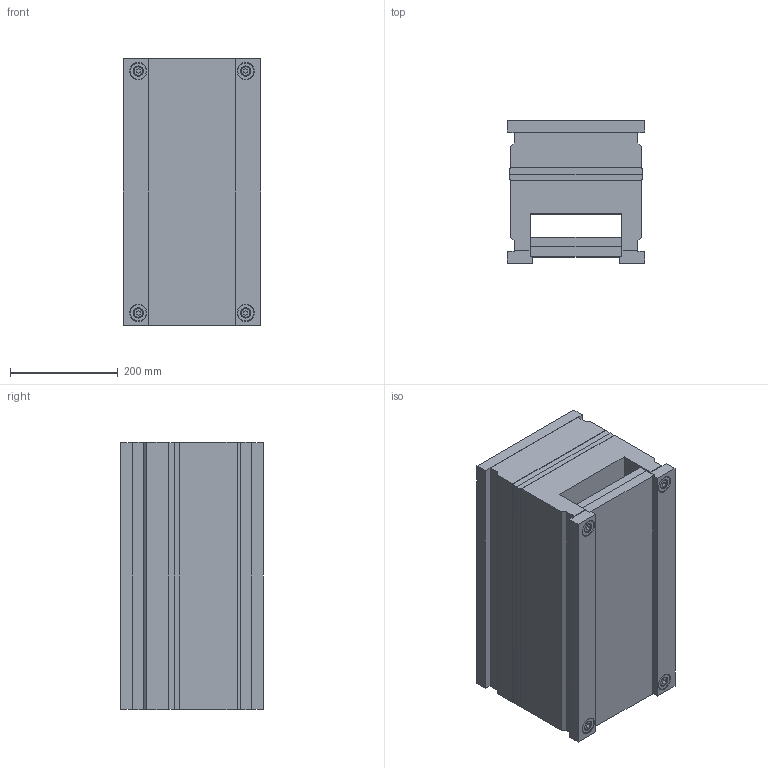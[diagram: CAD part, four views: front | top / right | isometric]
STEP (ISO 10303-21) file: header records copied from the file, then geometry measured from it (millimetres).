
FILE_DESCRIPTION (( 'STEP AP214' ), '1' );
FILE_NAME ('2466.STEP', '2002-07-10T07:55:07', ( 'Simcha Kilim' ), ( 'K. Plastics Engineering' ), 'SwSTEP 2.0', 'SolidWorks 2002025', '' );
FILE_SCHEMA (( 'AUTOMOTIVE_DESIGN' ));
Length unit declared in the file: millimetre
Products named in the file (12): 2466; ALMO (ejector half)_2466; ALMO (guide bush)_Ø18; ALMO (ejector return plate)_2466; ALMO (hot half)_2466; ALMO (ejector plate)_2466; ALMO (guide bush)_Ø19; ALMO (key plate)_Ø18; ALMO (guide pin)_Ø19; ALMO (screw)_M10x70; ALMO (guide pin)_Ø18; ALMO (screw)_M10x120
Assembly tree (28 placements, depth 2):
  2466
    ALMO (key plate)_Ø18  x8
    ALMO (screw)_M10x70  x4
    ALMO (guide bush)_Ø18  x3
    ALMO (hot half)_2466
    ALMO (screw)_M10x120  x4
    ALMO (guide pin)_Ø18  x3
    ALMO (ejector plate)_2466
    ALMO (guide pin)_Ø19
    ALMO (ejector return plate)_2466
    ALMO (guide bush)_Ø19
    ALMO (ejector half)_2466
Bounding box: 255 x 266 x 498 mm (x, y, z)
Volume: 27323069.1 mm3; surface area: 1556962 mm2
Topology: 28 solids, 28 shells, 706 faces, 1496 edges, 924 vertices
Faces by surface type: cylinder 260, plane 254, cone 192
Entity records: 10477 total; most frequent: DIRECTION 1914, CARTESIAN_POINT 1683, ORIENTED_EDGE 1584, EDGE_CURVE 792, AXIS2_PLACEMENT_3D 729, VERTEX_POINT 498, LINE 456, VECTOR 456
